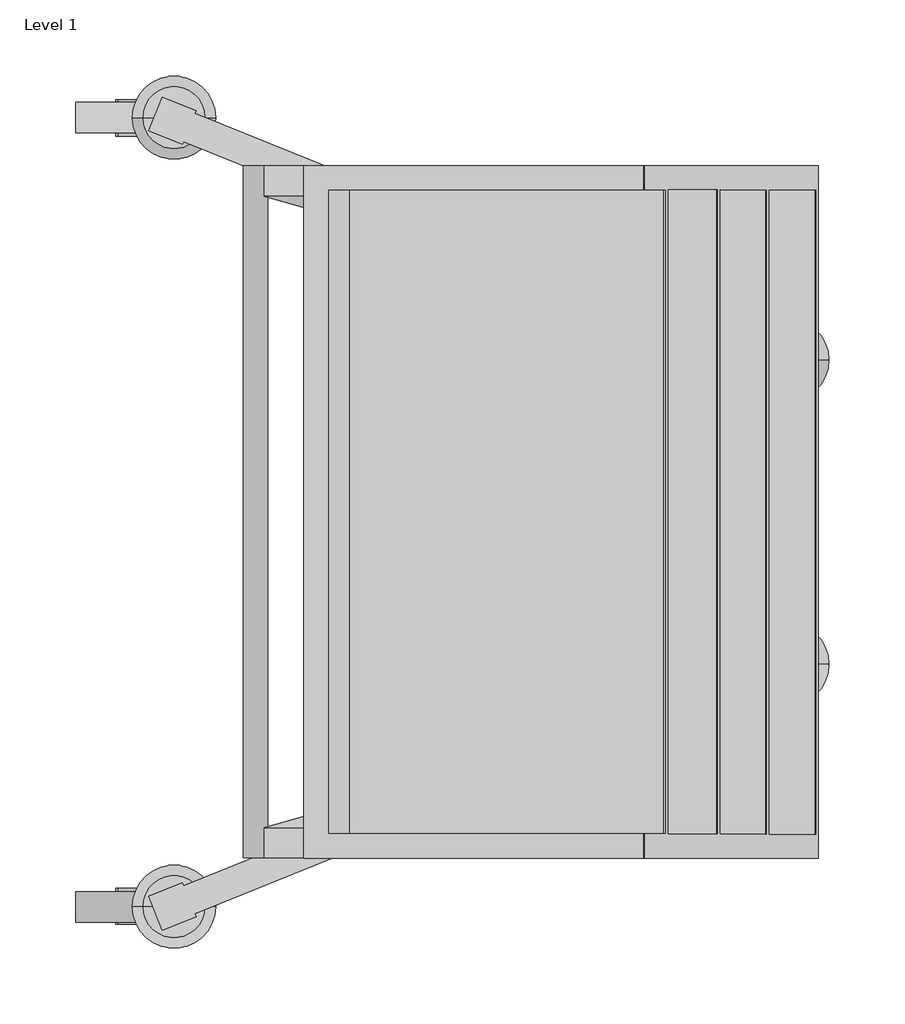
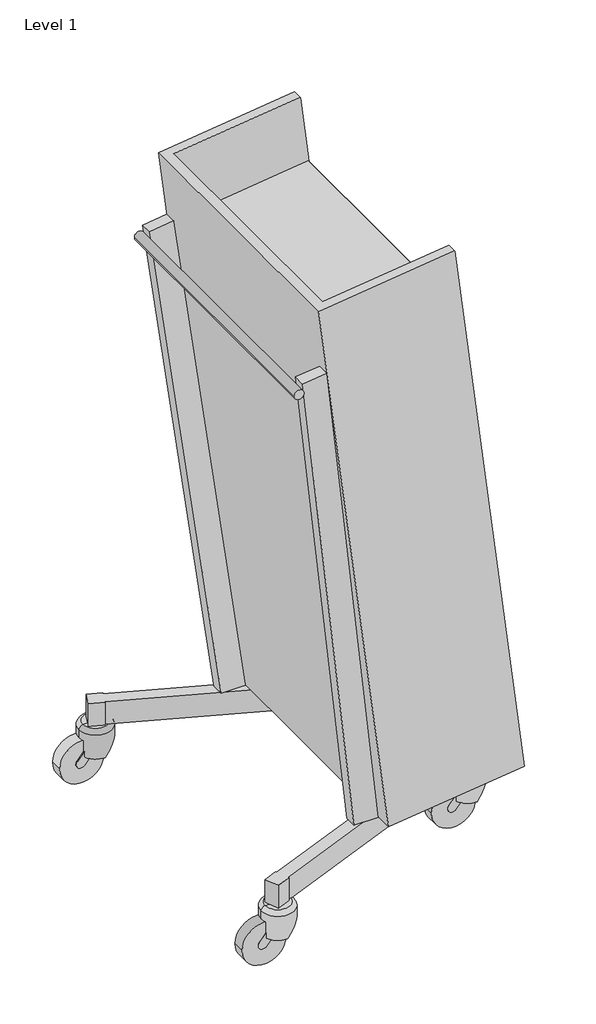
# One storey: 1 furniture element.
"""IFC4 building model written with IfcOpenShell, lengths in millimetres."""

import ifcopenshell
import ifcopenshell.guid

model = None  # the IFC model being written
_history = None  # IfcOwnerHistory: only IFC2X3 demands one
_inside = {}  # id of a spatial element -> (the spatial element, [elements in it])
_under = {}  # id of a project, library or spatial element -> (it, [spatial elements below it])
_declared = {}  # id of a project -> (the project, [libraries it declares])
_typed = {}  # id of a type object -> (the type object, [elements of that type])
_made_of = {}  # id of a material, layer set ... -> (it, [elements and type objects made of it])


def new_model(schema):
    """Start an empty IFC model of exactly this schema.

    Asked for "IFC4X3", IfcOpenShell would pick the latest addendum, in which some entities
    have other attributes; the version numbers below select the first issue.
    IFC2X3 requires an IfcOwnerHistory on every rooted entity: one is made here for all.
    """
    global model, _history
    if schema == "IFC4X3":
        model = ifcopenshell.file(schema_version=(4, 3, 0, 0))
    else:
        model = ifcopenshell.file(schema=schema)
    _inside.clear()
    _under.clear()
    _declared.clear()
    _typed.clear()
    _made_of.clear()
    _history = None
    if model.schema == "IFC2X3":
        org = make("IfcOrganization", Name="unknown")
        user = make(
            "IfcPersonAndOrganization",
            ThePerson=make("IfcPerson", FamilyName="unknown"),
            TheOrganization=org,
        )
        app = make(
            "IfcApplication",
            ApplicationDeveloper=org,
            Version="unknown",
            ApplicationFullName="unknown",
            ApplicationIdentifier="unknown",
        )
        _history = make(
            "IfcOwnerHistory",
            OwningUser=user,
            OwningApplication=app,
            ChangeAction="ADDED",
            CreationDate=0,
        )
    return model


def make(cls, **values):
    """One entity of the class cls with the attributes given. An attribute that is None is left unset."""
    return model.create_entity(
        cls, **{name: value for name, value in values.items() if value is not None}
    )


def rooted(cls, **values):
    """An entity with a GlobalId (a new one), such as an element, a storey or a relation."""
    return make(cls, GlobalId=ifcopenshell.guid.new(), OwnerHistory=_history, **values)


def si_unit(unit_type, name, prefix=None):
    """IfcSIUnit, for example si_unit("LENGTHUNIT", "METRE", prefix="MILLI")."""
    return make("IfcSIUnit", UnitType=unit_type, Prefix=prefix, Name=name)


def assignment(units):
    """IfcUnitAssignment: the units of a project."""
    return None if units is None else make("IfcUnitAssignment", Units=units)


def point(xyz):
    """IfcCartesianPoint."""
    return None if xyz is None else make("IfcCartesianPoint", Coordinates=xyz)


def direction(xyz):
    """IfcDirection."""
    return None if xyz is None else make("IfcDirection", DirectionRatios=xyz)


def frame(location, z_axis=None, x_axis=None):
    """IfcAxis2Placement3D, a coordinate frame: its origin and axes. An axis left out is left unset."""
    return make(
        "IfcAxis2Placement3D",
        Location=point(location),
        Axis=direction(z_axis),
        RefDirection=direction(x_axis),
    )


def frame_2d(location, x_axis=None):
    """IfcAxis2Placement2D, a coordinate frame in the plane: its origin and x axis."""
    return make(
        "IfcAxis2Placement2D", Location=point(location), RefDirection=direction(x_axis)
    )


def origin():
    """The frame at (0, 0, 0) with its axes left unset."""
    return frame((0.0, 0.0, 0.0))


def place(relative_to, where):
    """IfcLocalPlacement: puts the frame where relative to a parent placement (None: the world)."""
    return make(
        "IfcLocalPlacement", PlacementRelTo=relative_to, RelativePlacement=where
    )


def context(
    kind, dimensions, precision=None, world=None, true_north=None, identifier=None
):
    """IfcGeometricRepresentationContext, for example the 3D "Model" context."""
    return make(
        "IfcGeometricRepresentationContext",
        ContextIdentifier=identifier,
        ContextType=kind,
        CoordinateSpaceDimension=dimensions,
        Precision=precision,
        WorldCoordinateSystem=world,
        TrueNorth=true_north,
    )


def project(units=None, contexts=None):
    """IfcProject with its units and contexts."""
    return rooted(
        "IfcProject",
        Name="project",
        RepresentationContexts=contexts,
        UnitsInContext=assignment(units),
    )


def spatial(cls, under=None, at=None, **own):
    """A site, building, storey or space (cls), placed at a placement, below another one or the project."""
    s = rooted(cls, ObjectPlacement=at, **own)
    if under is not None:
        _under.setdefault(under.id(), (under, []))[1].append(s)
    return s


def polyline(points):
    """IfcPolyline through the points."""
    return make("IfcPolyline", Points=[point(p) for p in points])


def circle_curve(where, radius):
    """IfcCircle in the frame where."""
    return make("IfcCircle", Position=where, Radius=radius)


def ellipse_curve(where, semi_axis1, semi_axis2):
    """IfcEllipse in the frame where."""
    return make(
        "IfcEllipse", Position=where, SemiAxis1=semi_axis1, SemiAxis2=semi_axis2
    )


def trimmed(basis, trim1, trim2, sense, master):
    """IfcTrimmedCurve: the piece of a basis curve between two trims."""
    return make(
        "IfcTrimmedCurve",
        BasisCurve=basis,
        Trim1=trim1,
        Trim2=trim2,
        SenseAgreement=sense,
        MasterRepresentation=master,
    )


def segment(curve, same_sense, transition):
    """IfcCompositeCurveSegment."""
    return make(
        "IfcCompositeCurveSegment",
        Transition=transition,
        SameSense=same_sense,
        ParentCurve=curve,
    )


def composite_curve(segments, self_intersect=None):
    """IfcCompositeCurve: segments joined end to end."""
    return make("IfcCompositeCurve", Segments=segments, SelfIntersect=self_intersect)


def outline(outer, holes=None, kind="AREA"):
    """IfcArbitraryClosedProfileDef: a profile drawn as a closed curve; with holes, ...WithVoids."""
    if holes is None:
        return make("IfcArbitraryClosedProfileDef", ProfileType=kind, OuterCurve=outer)
    return make(
        "IfcArbitraryProfileDefWithVoids",
        ProfileType=kind,
        OuterCurve=outer,
        InnerCurves=holes,
    )


def extrude(swept, where, along, depth):
    """IfcExtrudedAreaSolid: the profile swept, set in the frame where, extruded along a direction by depth."""
    return make(
        "IfcExtrudedAreaSolid",
        SweptArea=swept,
        Position=where,
        ExtrudedDirection=direction(along),
        Depth=depth,
    )


def shape(context_of_items, identifier, shape_type, items):
    """IfcShapeRepresentation: the items that make up one representation, for example the "Body"."""
    return make(
        "IfcShapeRepresentation",
        ContextOfItems=context_of_items,
        RepresentationIdentifier=identifier,
        RepresentationType=shape_type,
        Items=items,
    )


def source(mapping_origin, context_of_items, identifier, shape_type, items):
    """IfcRepresentationMap: a shape defined once, which mapped items show again and again."""
    return make(
        "IfcRepresentationMap",
        MappingOrigin=mapping_origin,
        MappedRepresentation=shape(context_of_items, identifier, shape_type, items),
    )


def transform(
    local_origin,
    x_axis=None,
    y_axis=None,
    z_axis=None,
    scale=None,
    scale2=None,
    scale3=None,
    uniform=True,
):
    """IfcCartesianTransformationOperator3D, or its non-uniform kind. x_axis, y_axis, z_axis: its Axis1, 2, 3."""
    if uniform:
        return make(
            "IfcCartesianTransformationOperator3D",
            Axis1=direction(x_axis),
            Axis2=direction(y_axis),
            LocalOrigin=point(local_origin),
            Scale=scale,
            Axis3=direction(z_axis),
        )
    return make(
        "IfcCartesianTransformationOperator3DnonUniform",
        Axis1=direction(x_axis),
        Axis2=direction(y_axis),
        LocalOrigin=point(local_origin),
        Scale=scale,
        Axis3=direction(z_axis),
        Scale2=scale2,
        Scale3=scale3,
    )


def mapped(mapping_source, mapping_target):
    """IfcMappedItem: shows the shape of a source again, moved by a transform."""
    return make(
        "IfcMappedItem", MappingSource=mapping_source, MappingTarget=mapping_target
    )


def made_of(thing, what):
    """Note that an element or type object is made of a material, layer set ...; save() writes the relation."""
    if what is not None:
        _made_of.setdefault(what.id(), (what, []))[1].append(thing)
    return thing


def element(
    cls,
    number,
    at=None,
    inside=None,
    cuts=None,
    type_object=None,
    material=None,
    context=None,
    identifier="Body",
    shape_type=None,
    held_by="IfcProductDefinitionShape",
    body=None,
    shapes=None,
    **own,
):
    """One element of the class cls, such as IfcWall. Its Tag is "e" and its number.

    at: its placement. inside: the storey or other place that contains it. cuts: it is an
    opening in that element (IfcRelVoidsElement). A single representation is given by context,
    identifier, shape_type and body (its items); several are given by shapes. held_by: the class
    of the entity that holds the representations. save() writes the other relations.
    """
    e = rooted(cls, Tag="e%d" % number, ObjectPlacement=at, **own)
    if body is not None:
        shapes = [shape(context, identifier, shape_type, body)]
    if shapes is not None:
        e.Representation = make(held_by, Representations=shapes)
    if inside is not None:
        _inside.setdefault(inside.id(), (inside, []))[1].append(e)
    if cuts is not None:
        rooted(
            "IfcRelVoidsElement", RelatingBuildingElement=cuts, RelatedOpeningElement=e
        )
    if type_object is not None:
        _typed.setdefault(type_object.id(), (type_object, []))[1].append(e)
    return made_of(e, material)


def aggregate(whole, parts):
    """IfcRelAggregates: a whole, such as a stair, and the parts it consists of."""
    return rooted("IfcRelAggregates", RelatingObject=whole, RelatedObjects=parts)


def save(model, path):
    """Write the relations noted so far, then the file.

    IfcRelAggregates (storeys below a building ...), IfcRelContainedInSpatialStructure (elements
    in a storey), IfcRelDefinesByType, IfcRelAssociatesMaterial and IfcRelDeclares: one each for
    every whole, place, type object, material and project.
    """
    for whole, parts in _under.values():
        aggregate(whole, parts)
    for where, things in _inside.values():
        rooted(
            "IfcRelContainedInSpatialStructure",
            RelatedElements=things,
            RelatingStructure=where,
        )
    for kind, things in _typed.values():
        rooted("IfcRelDefinesByType", RelatedObjects=things, RelatingType=kind)
    for what, things in _made_of.values():
        rooted("IfcRelAssociatesMaterial", RelatedObjects=things, RelatingMaterial=what)
    for by, libraries in _declared.values():
        rooted("IfcRelDeclares", RelatingContext=by, RelatedDefinitions=libraries)
    model.write(path)


def plane_surface(at):
    """IfcPlane: the flat surface through the origin of the frame at, square to its z axis."""
    return make("IfcPlane", Position=at)


def cylinder_surface(at, radius):
    """IfcCylindricalSurface: all points at the distance radius from the z axis of the frame at."""
    return make("IfcCylindricalSurface", Position=at, Radius=radius)


def revolved_surface(curve, axis_point, axis_direction):
    """IfcSurfaceOfRevolution: the curve turned about the line through axis_point along axis_direction."""
    return make(
        "IfcSurfaceOfRevolution",
        SweptCurve=make("IfcArbitraryOpenProfileDef", ProfileType="CURVE", Curve=curve),
        AxisPosition=make("IfcAxis1Placement", Location=point(axis_point), Axis=direction(axis_direction)),
    )


def advanced_brep(points, edges, surfaces, faces):
    """IfcAdvancedBrep: a solid bounded by faces that lie on surfaces and meet in shared edges.

    An edge is (start, end): straight between two places in points (the first is 0);
    or (start, end, curve); or (start, end, curve, False) where it runs against its curve.
    A face is (place in surfaces, loops), or (place, loops, False) where it looks against
    its surface's normal. A loop lists edges by number (the first is 1), with a minus sign
    where the edge is run from its end to its start. The first loop is the outer one.
    """
    corners = [point(p) for p in points]
    vertices = [make("IfcVertexPoint", VertexGeometry=c) for c in corners]
    made = []
    for start, end, *more in edges:
        made.append(
            make(
                "IfcEdgeCurve",
                EdgeStart=vertices[start],
                EdgeEnd=vertices[end],
                EdgeGeometry=more[0] if more else make("IfcPolyline", Points=[corners[start], corners[end]]),
                SameSense=more[1] if len(more) > 1 else True,
            )
        )
    hull = []
    for where, loops, *sense in faces:
        bounds = []
        for j, loop in enumerate(loops):
            ring = [make("IfcOrientedEdge", EdgeElement=made[abs(k) - 1], Orientation=k > 0) for k in loop]
            bounds.append(
                make(
                    "IfcFaceOuterBound" if j == 0 else "IfcFaceBound",
                    Bound=make("IfcEdgeLoop", EdgeList=ring),
                    Orientation=True,
                )
            )
        hull.append(make("IfcAdvancedFace", Bounds=bounds, FaceSurface=surfaces[where], SameSense=sense[0] if sense else True))
    return make("IfcAdvancedBrep", Outer=make("IfcClosedShell", CfsFaces=hull))


def bk_library_bk_book_trolley_bk_library_bk_book_trolley_d79a5dd0(model_context):
    return source(origin(), model_context, "Body", "SolidModel", [
        advanced_brep(
        [(260.2793004, 215.4630173, 85.9771327), (260.2793004, 160.5929467, 85.9771327), (260.2793004, 160.5929467, 76.025685), (287.7095085, 187.513349, 44.4908375), (260.2793004, 215.4630173, 44.4908375), (232.8490923, 187.513349, 44.4908375), (260.2793004, 188.027982, 44.4908375), (260.2793004, 187.513349, 44.4908375), (260.2793004, 188.027982, 92.9771327), (260.2793004, 167.5929467, 92.9771327), (260.2793004, 208.4630173, 92.9771327)],
        [
            (0, 1, circle_curve(frame((260.2793004, 188.027982, 85.9771327), z_axis=(0.0, 0.0, -1.0), x_axis=(0.0, -1.0, 0.0)), 27.4350353)),
            (1, 2),
            (2, 3, ellipse_curve(frame((260.2793004, 188.027982, 43.8879909), z_axis=(0.0, 0.7605596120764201, 0.6492681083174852), x_axis=(0.0, -0.6492681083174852, 0.7605596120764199)), 42.2553256, 27.4350353)),
            (3, 4, circle_curve(frame((260.2793004, 188.027982, 44.4908375), z_axis=(0.0, 0.0, 1.0), x_axis=(0.0, -1.0, 0.0)), 27.4350353)),
            (4, 0),
            (4, 5, circle_curve(frame((260.2793004, 188.027982, 44.4908375), z_axis=(0.0, 0.0, 1.0), x_axis=(0.0, -1.0, 0.0)), 27.4350353)),
            (5, 2, ellipse_curve(frame((260.2793004, 188.027982, 43.8879909), z_axis=(0.0, 0.7605596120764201, 0.6492681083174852), x_axis=(0.0, -0.6492681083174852, 0.7605596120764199)), 42.2553256, 27.4350353)),
            (1, 0, circle_curve(frame((260.2793004, 188.027982, 85.9771327), z_axis=(0.0, 0.0, -1.0), x_axis=(0.0, -1.0, 0.0)), 27.4350353)),
            (6, 4),
            (3, 7),
            (7, 6),
            (7, 5),
            (8, 9),
            (9, 10, circle_curve(frame((260.2793004, 188.027982, 92.9771327), z_axis=(0.0, 0.0, 1.0), x_axis=(0.0, -1.0, 0.0)), 20.4350353)),
            (10, 8),
            (10, 9, circle_curve(frame((260.2793004, 188.027982, 92.9771327), z_axis=(0.0, 0.0, 1.0), x_axis=(0.0, -1.0, 0.0)), 20.4350353)),
            (0, 10, circle_curve(frame((260.2793004, 208.4630173, 85.9771327), z_axis=(1.0, 0.0, 0.0), x_axis=(0.0, -1.0, 0.0)), 7.0)),
            (9, 1, circle_curve(frame((260.2793004, 167.5929467, 85.9771327), z_axis=(1.0, 0.0, 0.0), x_axis=(0.0, 1.0, 0.0)), 7.0)),
        ],
        [
            cylinder_surface(frame((260.2793004, 188.027982, 133.8335618), z_axis=(0.0, 0.0, 1.0), x_axis=(0.0, -1.0, 0.0)), 27.4350353),
            plane_surface(frame((260.2793004, 188.027982, 44.4908375), z_axis=(0.0, 0.0, -1.0), x_axis=(0.0, -1.0, 0.0))),
            plane_surface(frame((260.2793004, 188.027982, 92.9771327), z_axis=(0.0, 0.0, 1.0), x_axis=(0.0, -1.0, 0.0))),
            revolved_surface(trimmed(ellipse_curve(frame((260.2793004, 167.5929467, 85.9771327), z_axis=(-1.0, 0.0, 0.0), x_axis=(0.0, 1.0, 0.0)), 7.0, 7.0), [point((260.2793004, 160.5929467, 85.9771327))], [point((260.2793004, 167.5929467, 92.9771327))], True, "CARTESIAN"), (260.2793004, 188.027982, 133.8335618), (0.0, 0.0, 1.0)),
            plane_surface(frame((228.001518, 146.9121455, 92.0515219), z_axis=(0.0, -0.7605596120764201, -0.6492681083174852), x_axis=(1.0, 0.0, 0.0))),
        ],
        [
            (0, [[1, 2, 3, 4, 5]]),
            (0, [[-5, 6, 7, -2, 8]]),
            (1, [[9, -4, 10, 11]]),
            (1, [[-9, -11, 12, -6]]),
            (2, [[13, 14, 15]]),
            (2, [[-13, -15, 16]]),
            (3, [[-1, 17, -14, 18]]),
            (3, [[-8, -18, -16, -17]]),
            (4, [[-3, -7, -12, -10]]),
        ],
    ),
        extrude(outline(composite_curve([segment(trimmed(circle_curve(frame_2d((216.4774948, 36.3613825)), 36.3613825), [point((252.8388773, 36.3613825))], [point((180.1161123, 36.3613825))], False, "CARTESIAN"), True, "CONTINUOUS"), segment(trimmed(circle_curve(frame_2d((216.4774948, 36.3613825)), 36.3613825), [point((180.1161123, 36.3613825))], [point((180.1598679, 38.1446696))], False, "CARTESIAN"), True, "CONTINUOUS"), segment(polyline([(180.1598679, 38.1446696), (192.930892, 38.1446696), (182.7835547, 50.0313692)]), True, "CONTINUOUS"), segment(trimmed(circle_curve(frame_2d((216.4774948, 36.3613825)), 36.3613825), [point((182.7835547, 50.0313692))], [point((252.8388773, 36.3613825))], False, "CARTESIAN"), True, "CONTINUOUS")], self_intersect=False)), frame((250.4169584, 0.0, 0.0), z_axis=(1.0, 0.0, 0.0), x_axis=(0.0, 1.0, 0.0)), (0.0, 0.0, 1.0), 20.086419),
        extrude(outline(composite_curve([segment(trimmed(circle_curve(frame_2d((218.9212863, 35.8271855)), 7.6381626), [point((224.7724583, 40.7369017))], [point((213.0701143, 30.9174692))], False, "CARTESIAN"), True, "CONTINUOUS"), segment(polyline([(213.0701143, 30.9174692), (191.0834266, 57.1201833), (204.8484986, 64.4813522), (224.7724583, 40.7369017)]), True, "CONTINUOUS")], self_intersect=False)), frame((248.001518, 0.0, 0.0), z_axis=(1.0, 0.0, 0.0), x_axis=(0.0, 1.0, 0.0)), (0.0, 0.0, 1.0), 23.9781765),
        advanced_brep(
        [(-260.2793004, 160.5929467, 85.9771327), (-260.2793004, 215.4630173, 85.9771327), (-260.2793004, 215.4630173, 44.4908375), (-287.7095085, 187.513349, 44.4908375), (-260.2793004, 160.5929467, 76.025685), (-232.8490923, 187.513349, 44.4908375), (-260.2793004, 188.027982, 44.4908375), (-260.2793004, 187.513349, 44.4908375), (-260.2793004, 208.4630173, 92.9771327), (-260.2793004, 167.5929467, 92.9771327), (-260.2793004, 188.027982, 92.9771327)],
        [
            (0, 1, circle_curve(frame((-260.2793004, 188.027982, 85.9771327), z_axis=(0.0, 0.0, -1.0), x_axis=(0.0, -1.0, 0.0)), 27.4350353)),
            (1, 2),
            (2, 3, circle_curve(frame((-260.2793004, 188.027982, 44.4908375), z_axis=(0.0, 0.0, 1.0), x_axis=(0.0, -1.0, 0.0)), 27.4350353)),
            (3, 4, ellipse_curve(frame((-260.2793004, 188.027982, 43.8879909), z_axis=(0.0, 0.7605596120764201, 0.6492681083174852), x_axis=(0.0, 0.6492681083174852, -0.7605596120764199)), 42.2553256, 27.4350353)),
            (4, 0),
            (1, 0, circle_curve(frame((-260.2793004, 188.027982, 85.9771327), z_axis=(0.0, 0.0, -1.0), x_axis=(0.0, -1.0, 0.0)), 27.4350353)),
            (4, 5, ellipse_curve(frame((-260.2793004, 188.027982, 43.8879909), z_axis=(0.0, 0.7605596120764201, 0.6492681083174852), x_axis=(0.0, 0.6492681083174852, -0.7605596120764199)), 42.2553256, 27.4350353)),
            (5, 2, circle_curve(frame((-260.2793004, 188.027982, 44.4908375), z_axis=(0.0, 0.0, 1.0), x_axis=(0.0, -1.0, 0.0)), 27.4350353)),
            (2, 6),
            (6, 7),
            (7, 3),
            (5, 7),
            (8, 9, circle_curve(frame((-260.2793004, 188.027982, 92.9771327), z_axis=(0.0, 0.0, 1.0), x_axis=(0.0, -1.0, 0.0)), 20.4350353)),
            (9, 10),
            (10, 8),
            (9, 8, circle_curve(frame((-260.2793004, 188.027982, 92.9771327), z_axis=(0.0, 0.0, 1.0), x_axis=(0.0, -1.0, 0.0)), 20.4350353)),
            (0, 9, circle_curve(frame((-260.2793004, 167.5929467, 85.9771327), z_axis=(-1.0, 0.0, 0.0), x_axis=(0.0, 1.0, 0.0)), 7.0)),
            (8, 1, circle_curve(frame((-260.2793004, 208.4630173, 85.9771327), z_axis=(-1.0, 0.0, 0.0), x_axis=(0.0, -1.0, 0.0)), 7.0)),
        ],
        [
            cylinder_surface(frame((-260.2793004, 188.027982, 133.8335618), z_axis=(0.0, 0.0, -1.0), x_axis=(0.0, -1.0, 0.0)), 27.4350353),
            plane_surface(frame((-260.2793004, 188.027982, 44.4908375), z_axis=(0.0, 0.0, -1.0), x_axis=(0.0, -1.0, 0.0))),
            plane_surface(frame((-260.2793004, 188.027982, 92.9771327), z_axis=(0.0, 0.0, 1.0), x_axis=(0.0, -1.0, 0.0))),
            revolved_surface(trimmed(ellipse_curve(frame((-260.2793004, 167.5929467, 85.9771327), z_axis=(1.0, 0.0, 0.0), x_axis=(0.0, 1.0, 0.0)), 7.0, 7.0), [point((-260.2793004, 167.5929467, 92.9771327))], [point((-260.2793004, 160.5929467, 85.9771327))], True, "CARTESIAN"), (-260.2793004, 188.027982, 133.8335618), (0.0, 0.0, -1.0)),
            plane_surface(frame((-228.001518, 192.930892, 38.1446696), z_axis=(0.0, -0.7605596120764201, -0.6492681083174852), x_axis=(-1.0, 0.0, 0.0))),
        ],
        [
            (0, [[1, 2, 3, 4, 5]]),
            (0, [[-2, 6, -5, 7, 8]]),
            (1, [[9, 10, 11, -3]]),
            (1, [[-9, -8, 12, -10]]),
            (2, [[13, 14, 15]]),
            (2, [[-14, 16, -15]]),
            (3, [[-1, 17, -13, 18]]),
            (3, [[-6, -18, -16, -17]]),
            (4, [[-4, -11, -12, -7]]),
        ],
    ),
        extrude(outline(composite_curve([segment(trimmed(circle_curve(frame_2d((216.4774948, 36.3613825)), 36.3613825), [point((252.8388773, 36.3613825))], [point((180.1161123, 36.3613825))], False, "CARTESIAN"), True, "CONTINUOUS"), segment(trimmed(circle_curve(frame_2d((216.4774948, 36.3613825)), 36.3613825), [point((180.1161123, 36.3613825))], [point((180.1598679, 38.1446696))], False, "CARTESIAN"), True, "CONTINUOUS"), segment(polyline([(180.1598679, 38.1446696), (192.930892, 38.1446696), (182.7835547, 50.0313692)]), True, "CONTINUOUS"), segment(trimmed(circle_curve(frame_2d((216.4774948, 36.3613825)), 36.3613825), [point((182.7835547, 50.0313692))], [point((252.8388773, 36.3613825))], False, "CARTESIAN"), True, "CONTINUOUS")], self_intersect=False)), frame((-270.5033774, 0.0, 0.0), z_axis=(1.0, 0.0, 0.0), x_axis=(0.0, 1.0, 0.0)), (0.0, 0.0, 1.0), 20.086419),
        extrude(outline(composite_curve([segment(trimmed(circle_curve(frame_2d((218.9212863, 35.8271855)), 7.6381626), [point((224.7724583, 40.7369017))], [point((213.0701143, 30.9174692))], False, "CARTESIAN"), True, "CONTINUOUS"), segment(polyline([(213.0701143, 30.9174692), (191.0834266, 57.1201833), (204.8484986, 64.4813522), (224.7724583, 40.7369017)]), True, "CONTINUOUS")], self_intersect=False)), frame((-271.9796945, 0.0, 0.0), z_axis=(1.0, 0.0, 0.0), x_axis=(0.0, 1.0, 0.0)), (0.0, 0.0, 1.0), 23.9781765),
        advanced_brep(
        [(100.3897984, -189.2297451, 85.9771327), (100.3897984, -244.0998158, 85.9771327), (100.3897984, -244.0998158, 76.025685), (127.8200065, -217.1794135, 44.4908375), (100.3897984, -189.2297451, 44.4908375), (72.9595903, -217.1794135, 44.4908375), (100.3897984, -216.6647805, 44.4908375), (100.3897984, -217.1794135, 44.4908375), (100.3897984, -216.6647805, 92.9771327), (100.3897984, -237.0998158, 92.9771327), (100.3897984, -196.2297451, 92.9771327)],
        [
            (0, 1, circle_curve(frame((100.3897984, -216.6647805, 85.9771327), z_axis=(0.0, 0.0, -1.0), x_axis=(0.0, -1.0, 0.0)), 27.4350353)),
            (1, 2),
            (2, 3, ellipse_curve(frame((100.3897984, -216.6647805, 43.8879909), z_axis=(0.0, 0.76055961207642, 0.6492681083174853), x_axis=(0.0, -0.6492681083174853, 0.7605596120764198)), 42.2553256, 27.4350353)),
            (3, 4, circle_curve(frame((100.3897984, -216.6647805, 44.4908375), z_axis=(0.0, 0.0, 1.0), x_axis=(0.0, -1.0, 0.0)), 27.4350353)),
            (4, 0),
            (4, 5, circle_curve(frame((100.3897984, -216.6647805, 44.4908375), z_axis=(0.0, 0.0, 1.0), x_axis=(0.0, -1.0, 0.0)), 27.4350353)),
            (5, 2, ellipse_curve(frame((100.3897984, -216.6647805, 43.8879909), z_axis=(0.0, 0.76055961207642, 0.6492681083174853), x_axis=(0.0, -0.6492681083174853, 0.7605596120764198)), 42.2553256, 27.4350353)),
            (1, 0, circle_curve(frame((100.3897984, -216.6647805, 85.9771327), z_axis=(0.0, 0.0, -1.0), x_axis=(0.0, -1.0, 0.0)), 27.4350353)),
            (6, 4),
            (3, 7),
            (7, 6),
            (7, 5),
            (8, 9),
            (9, 10, circle_curve(frame((100.3897984, -216.6647805, 92.9771327), z_axis=(0.0, 0.0, 1.0), x_axis=(0.0, -1.0, 0.0)), 20.4350353)),
            (10, 8),
            (10, 9, circle_curve(frame((100.3897984, -216.6647805, 92.9771327), z_axis=(0.0, 0.0, 1.0), x_axis=(0.0, -1.0, 0.0)), 20.4350353)),
            (0, 10, circle_curve(frame((100.3897984, -196.2297451, 85.9771327), z_axis=(1.0, 0.0, 0.0), x_axis=(0.0, -1.0, 0.0)), 7.0)),
            (9, 1, circle_curve(frame((100.3897984, -237.0998158, 85.9771327), z_axis=(1.0, 0.0, 0.0), x_axis=(0.0, 1.0, 0.0)), 7.0)),
        ],
        [
            cylinder_surface(frame((100.3897984, -216.6647805, 133.8335618), z_axis=(0.0, 0.0, 1.0), x_axis=(0.0, -1.0, 0.0)), 27.4350353),
            plane_surface(frame((100.3897984, -216.6647805, 44.4908375), z_axis=(0.0, 0.0, -1.0), x_axis=(0.0, -1.0, 0.0))),
            plane_surface(frame((100.3897984, -216.6647805, 92.9771327), z_axis=(0.0, 0.0, 1.0), x_axis=(0.0, -1.0, 0.0))),
            revolved_surface(trimmed(ellipse_curve(frame((100.3897984, -237.0998158, 85.9771327), z_axis=(-1.0, 0.0, 0.0), x_axis=(0.0, 1.0, 0.0)), 7.0, 7.0), [point((100.3897984, -244.0998158, 85.9771327))], [point((100.3897984, -237.0998158, 92.9771327))], True, "CARTESIAN"), (100.3897984, -216.6647805, 133.8335618), (0.0, 0.0, 1.0)),
            plane_surface(frame((68.1120159, -257.780617, 92.0515219), z_axis=(0.0, -0.76055961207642, -0.6492681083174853), x_axis=(1.0, 0.0, 0.0))),
        ],
        [
            (0, [[1, 2, 3, 4, 5]]),
            (0, [[-5, 6, 7, -2, 8]]),
            (1, [[9, -4, 10, 11]]),
            (1, [[-9, -11, 12, -6]]),
            (2, [[13, 14, 15]]),
            (2, [[-13, -15, 16]]),
            (3, [[-1, 17, -14, 18]]),
            (3, [[-8, -18, -16, -17]]),
            (4, [[-3, -7, -12, -10]]),
        ],
    ),
        extrude(outline(composite_curve([segment(trimmed(circle_curve(frame_2d((-188.2152676, 36.3613825)), 36.3613825), [point((-151.8538851, 36.3613825))], [point((-224.5766502, 36.3613825))], False, "CARTESIAN"), True, "CONTINUOUS"), segment(trimmed(circle_curve(frame_2d((-188.2152676, 36.3613825)), 36.3613825), [point((-224.5766502, 36.3613825))], [point((-224.5328946, 38.1446696))], False, "CARTESIAN"), True, "CONTINUOUS"), segment(polyline([(-224.5328946, 38.1446696), (-211.7618704, 38.1446696), (-221.9092078, 50.0313692)]), True, "CONTINUOUS"), segment(trimmed(circle_curve(frame_2d((-188.2152676, 36.3613825)), 36.3613825), [point((-221.9092078, 50.0313692))], [point((-151.8538851, 36.3613825))], False, "CARTESIAN"), True, "CONTINUOUS")], self_intersect=False)), frame((90.5274563, 0.0, 0.0), z_axis=(1.0, 0.0, 0.0), x_axis=(0.0, 1.0, 0.0)), (0.0, 0.0, 1.0), 20.086419),
        extrude(outline(composite_curve([segment(trimmed(circle_curve(frame_2d((-188.2152676, 36.3613825)), 36.3613825), [point((-224.5766502, 36.3613825))], [point((-151.8538851, 36.3613825))], False, "CARTESIAN"), True, "CONTINUOUS"), segment(trimmed(circle_curve(frame_2d((-188.2152676, 36.3613825)), 36.3613825), [point((-151.8538851, 36.3613825))], [point((-224.5766502, 36.3613825))], False, "CARTESIAN"), True, "CONTINUOUS")], self_intersect=False)), frame((-110.6138753, 0.0, 0.0), z_axis=(1.0, 0.0, 0.0), x_axis=(0.0, 1.0, 0.0)), (0.0, 0.0, 1.0), 20.086419),
        extrude(outline(composite_curve([segment(trimmed(circle_curve(frame_2d((-185.7714762, 35.8271855)), 7.6381626), [point((-179.9203042, 40.7369017))], [point((-191.6226481, 30.9174692))], False, "CARTESIAN"), True, "CONTINUOUS"), segment(polyline([(-191.6226481, 30.9174692), (-213.6093359, 57.1201833), (-199.8442638, 64.4813522), (-179.9203042, 40.7369017)]), True, "CONTINUOUS")], self_intersect=False)), frame((88.1120159, 0.0, 0.0), z_axis=(1.0, 0.0, 0.0), x_axis=(0.0, 1.0, 0.0)), (0.0, 0.0, 1.0), 23.9781765),
        advanced_brep(
        [(-100.3897984, -244.0998158, 85.9771327), (-100.3897984, -189.2297451, 85.9771327), (-100.3897984, -189.2297451, 44.4908375), (-127.8200065, -217.1794135, 44.4908375), (-100.3897984, -244.0998158, 76.025685), (-72.9595903, -217.1794135, 44.4908375), (-100.3897984, -216.6647805, 44.4908375), (-100.3897984, -217.1794135, 44.4908375), (-100.3897984, -196.2297451, 92.9771327), (-100.3897984, -237.0998158, 92.9771327), (-100.3897984, -216.6647805, 92.9771327)],
        [
            (0, 1, circle_curve(frame((-100.3897984, -216.6647805, 85.9771327), z_axis=(0.0, 0.0, -1.0), x_axis=(0.0, -1.0, 0.0)), 27.4350353)),
            (1, 2),
            (2, 3, circle_curve(frame((-100.3897984, -216.6647805, 44.4908375), z_axis=(0.0, 0.0, 1.0), x_axis=(0.0, -1.0, 0.0)), 27.4350353)),
            (3, 4, ellipse_curve(frame((-100.3897984, -216.6647805, 43.8879909), z_axis=(0.0, 0.76055961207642, 0.6492681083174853), x_axis=(0.0, 0.6492681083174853, -0.7605596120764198)), 42.2553256, 27.4350353)),
            (4, 0),
            (1, 0, circle_curve(frame((-100.3897984, -216.6647805, 85.9771327), z_axis=(0.0, 0.0, -1.0), x_axis=(0.0, -1.0, 0.0)), 27.4350353)),
            (4, 5, ellipse_curve(frame((-100.3897984, -216.6647805, 43.8879909), z_axis=(0.0, 0.76055961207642, 0.6492681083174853), x_axis=(0.0, 0.6492681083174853, -0.7605596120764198)), 42.2553256, 27.4350353)),
            (5, 2, circle_curve(frame((-100.3897984, -216.6647805, 44.4908375), z_axis=(0.0, 0.0, 1.0), x_axis=(0.0, -1.0, 0.0)), 27.4350353)),
            (2, 6),
            (6, 7),
            (7, 3),
            (5, 7),
            (8, 9, circle_curve(frame((-100.3897984, -216.6647805, 92.9771327), z_axis=(0.0, 0.0, 1.0), x_axis=(0.0, -1.0, 0.0)), 20.4350353)),
            (9, 10),
            (10, 8),
            (9, 8, circle_curve(frame((-100.3897984, -216.6647805, 92.9771327), z_axis=(0.0, 0.0, 1.0), x_axis=(0.0, -1.0, 0.0)), 20.4350353)),
            (0, 9, circle_curve(frame((-100.3897984, -237.0998158, 85.9771327), z_axis=(-1.0, 0.0, 0.0), x_axis=(0.0, 1.0, 0.0)), 7.0)),
            (8, 1, circle_curve(frame((-100.3897984, -196.2297451, 85.9771327), z_axis=(-1.0, 0.0, 0.0), x_axis=(0.0, -1.0, 0.0)), 7.0)),
        ],
        [
            cylinder_surface(frame((-100.3897984, -216.6647805, 133.8335618), z_axis=(0.0, 0.0, -1.0), x_axis=(0.0, -1.0, 0.0)), 27.4350353),
            plane_surface(frame((-100.3897984, -216.6647805, 44.4908375), z_axis=(0.0, 0.0, -1.0), x_axis=(0.0, -1.0, 0.0))),
            plane_surface(frame((-100.3897984, -216.6647805, 92.9771327), z_axis=(0.0, 0.0, 1.0), x_axis=(0.0, -1.0, 0.0))),
            revolved_surface(trimmed(ellipse_curve(frame((-100.3897984, -237.0998158, 85.9771327), z_axis=(1.0, 0.0, 0.0), x_axis=(0.0, 1.0, 0.0)), 7.0, 7.0), [point((-100.3897984, -237.0998158, 92.9771327))], [point((-100.3897984, -244.0998158, 85.9771327))], True, "CARTESIAN"), (-100.3897984, -216.6647805, 133.8335618), (0.0, 0.0, -1.0)),
            plane_surface(frame((-68.1120159, -211.7618704, 38.1446696), z_axis=(0.0, -0.76055961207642, -0.6492681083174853), x_axis=(-1.0, 0.0, 0.0))),
        ],
        [
            (0, [[1, 2, 3, 4, 5]]),
            (0, [[-2, 6, -5, 7, 8]]),
            (1, [[9, 10, 11, -3]]),
            (1, [[-9, -8, 12, -10]]),
            (2, [[13, 14, 15]]),
            (2, [[-14, 16, -15]]),
            (3, [[-1, 17, -13, 18]]),
            (3, [[-6, -18, -16, -17]]),
            (4, [[-4, -11, -12, -7]]),
        ],
    ),
        extrude(outline(composite_curve([segment(trimmed(circle_curve(frame_2d((-185.7714762, 35.8271855)), 7.6381626), [point((-179.9203042, 40.7369017))], [point((-191.6226481, 30.9174692))], False, "CARTESIAN"), True, "CONTINUOUS"), segment(polyline([(-191.6226481, 30.9174692), (-213.6093359, 57.1201833), (-199.8442638, 64.4813522), (-179.9203042, 40.7369017)]), True, "CONTINUOUS")], self_intersect=False)), frame((-112.0901924, 0.0, 0.0), z_axis=(1.0, 0.0, 0.0), x_axis=(0.0, 1.0, 0.0)), (0.0, 0.0, 1.0), 23.9781765),
        advanced_brep(
        [(-228.4589427, -121.4559635, 1098.3397972), (-228.4589427, 102.4644681, 1070.8458253), (-228.4589427, -12.7356493, 133.1961951), (-228.4589427, -237.1361273, 160.7491093), (-228.4589427, -122.0737285, 1097.8571462), (-212.4590291, -204.7188743, 424.7664485), (-212.4590291, -235.2593463, 176.0343782), (-212.4590291, -234.590697, 176.5567842), (-212.4590291, -26.7515376, 151.0373443), (-212.4590291, 3.715799, 399.1738886), (-212.4590291, -172.3016282, 688.7837311), (-212.4590291, -202.8421019, 440.0516473), (-212.4590291, -202.1734526, 440.5740534), (-212.4590291, 5.6657069, 415.0546135), (-212.4590291, 36.1330451, 663.1911713), (-212.4590291, -138.0934504, 967.3869814), (-212.4590291, -170.4248535, 704.068948), (-212.4590291, -169.7562042, 704.5913541), (-212.4590291, 38.0829552, 679.0719142), (-212.4590291, 70.3412229, 941.7944215), (-212.4590291, -121.4559635, 1098.3397972), (-212.4590291, -122.0737285, 1097.8571462), (-212.4590291, -136.2927596, 982.0525854), (-212.4590291, -134.9284584, 983.1184943), (-212.4590291, 72.2911285, 957.6751284), (-212.4590291, 86.4285018, 1072.8147944), (228.4589427, -237.1361273, 160.7491093), (228.4589427, -122.0764748, 1097.83478), (212.4590291, -122.0764748, 1097.83478), (212.4590291, -136.292741, 982.0525831), (212.4590291, -138.0934504, 967.3869814), (212.4590291, -170.4248397, 704.0689463), (212.4590291, -172.3016282, 688.7837311), (212.4590291, -202.8420881, 440.0516456), (212.4590291, -204.7188743, 424.7664485), (212.4590291, -235.2593325, 176.0343765), (228.4589427, -12.7356493, 133.1961951), (228.4589427, 102.4644681, 1070.8458253), (212.4590291, 86.4285018, 1072.8147944), (212.4590291, -121.4335973, 1098.3370509), (228.4589427, -121.4335973, 1098.3370509), (212.4590291, 72.2911285, 957.6751284), (212.4590291, -134.9284584, 983.1184943), (212.4590291, 70.3412229, 941.7944215), (212.4590291, 38.0829552, 679.0719142), (212.4590291, -169.7562042, 704.5913541), (212.4590291, 36.1330451, 663.1911713), (212.4590291, 5.6657069, 415.0546135), (212.4590291, -202.1734526, 440.5740534), (212.4590291, 3.715799, 399.1738886), (212.4590291, -26.7515376, 151.0373443), (212.4590291, -234.590697, 176.5567842)],
        [
            (0, 1),
            (1, 2),
            (2, 3),
            (3, 4),
            (4, 0, circle_curve(frame((-228.4589427, -121.5235205, 1097.7895892), z_axis=(-1.0, 0.0, 0.0), x_axis=(0.0, -1.0, 0.0)), 0.55434)),
            (5, 6),
            (6, 7, circle_curve(frame((-212.4590291, -234.6638186, 175.9612566), z_axis=(-1.0, 0.0, 0.0), x_axis=(0.0, -1.0, 0.0)), 0.6)),
            (7, 8),
            (8, 9),
            (9, 5),
            (10, 11),
            (11, 12, circle_curve(frame((-212.4590291, -202.2465742, 439.9785257), z_axis=(-1.0, 0.0, 0.0), x_axis=(0.0, -1.0, 0.0)), 0.6)),
            (12, 13),
            (13, 14),
            (14, 10),
            (15, 16),
            (16, 17, circle_curve(frame((-212.4590291, -169.8293259, 703.9958264), z_axis=(-1.0, 0.0, 0.0), x_axis=(0.0, -1.0, 0.0)), 0.6)),
            (17, 18),
            (18, 19),
            (19, 15),
            (20, 21, circle_curve(frame((-212.4590291, -121.5235205, 1097.7895892), z_axis=(1.0, 0.0, 0.0), x_axis=(0.0, -1.0, 0.0)), 0.55434)),
            (21, 22),
            (22, 23, circle_curve(frame((-212.4590291, -135.0776545, 981.9033893), z_axis=(-1.0, 0.0, 0.0), x_axis=(0.0, -1.0, 0.0)), 1.2242303)),
            (23, 24),
            (24, 25),
            (25, 20),
            (3, 26),
            (26, 27),
            (27, 28),
            (28, 29),
            (29, 22),
            (21, 4),
            (15, 30),
            (30, 31),
            (31, 16),
            (10, 32),
            (32, 33),
            (33, 11),
            (5, 34),
            (34, 35),
            (35, 6),
            (2, 36),
            (36, 26),
            (1, 37),
            (37, 36),
            (0, 20),
            (25, 38),
            (38, 39),
            (39, 40),
            (40, 37),
            (24, 41),
            (41, 38),
            (23, 42),
            (42, 41),
            (19, 43),
            (43, 30),
            (18, 44),
            (44, 43),
            (17, 45),
            (45, 44),
            (14, 46),
            (46, 32),
            (13, 47),
            (47, 46),
            (12, 48),
            (48, 47),
            (9, 49),
            (49, 34),
            (8, 50),
            (50, 49),
            (7, 51),
            (51, 50),
            (40, 27, circle_curve(frame((228.4589427, -121.5039006, 1097.7644768), z_axis=(1.0, 0.0, 0.0), x_axis=(0.0, -1.0, 0.0)), 0.5768741)),
            (45, 31, circle_curve(frame((212.4590291, -169.8293259, 703.9958264), z_axis=(1.0, 0.0, 0.0), x_axis=(0.0, -1.0, 0.0)), 0.6)),
            (48, 33, circle_curve(frame((212.4590291, -202.2465742, 439.9785257), z_axis=(1.0, 0.0, 0.0), x_axis=(0.0, -1.0, 0.0)), 0.6)),
            (51, 35, circle_curve(frame((212.4590291, -234.6638186, 175.9612566), z_axis=(1.0, 0.0, 0.0), x_axis=(0.0, -1.0, 0.0)), 0.6)),
            (28, 39, circle_curve(frame((212.4590291, -121.5039006, 1097.7644768), z_axis=(-1.0, 0.0, 0.0), x_axis=(0.0, -1.0, 0.0)), 0.5768741)),
            (42, 29, circle_curve(frame((212.4590291, -135.0776545, 981.9033893), z_axis=(1.0, 0.0, 0.0), x_axis=(0.0, -1.0, 0.0)), 1.2242303)),
        ],
        [
            plane_surface(frame((-228.4589427, 102.309254, 1070.8648832), z_axis=(-1.0, 0.0, 0.0), x_axis=(0.0, 0.9925461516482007, -0.12186934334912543))),
            plane_surface(frame((-212.4590291, 102.309254, 1070.8648832), z_axis=(1.0, 0.0, 0.0), x_axis=(0.0, -0.9925461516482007, 0.12186934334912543))),
            plane_surface(frame((-228.4589427, -237.1361273, 160.7491093), z_axis=(0.0, -0.9925461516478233, 0.12186934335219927), x_axis=(1.0, 0.0, 0.0))),
            plane_surface(frame((-228.4589427, -12.7356493, 133.1961951), z_axis=(0.0, -0.12186934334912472, -0.9925461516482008), x_axis=(1.0, 0.0, 0.0))),
            plane_surface(frame((-228.4589427, 102.4644681, 1070.8458253), z_axis=(0.0, 0.9925370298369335, -0.12194361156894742), x_axis=(1.0, 0.0, 0.0))),
            plane_surface(frame((-228.4589427, -121.4559635, 1098.3397972), z_axis=(0.0, 0.12186934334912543, 0.9925461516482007), x_axis=(1.0, 0.0, 0.0))),
            plane_surface(frame((212.4590291, 86.4285088, 1072.8148509), z_axis=(0.0, -0.9925461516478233, 0.12186934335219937), x_axis=(-1.0, 0.0, 0.0))),
            plane_surface(frame((212.4590291, 72.2911285, 957.6751284), z_axis=(0.0, 0.12186934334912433, 0.9925461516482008), x_axis=(-1.0, 0.0, 0.0))),
            plane_surface(frame((212.4590291, -138.093469, 967.3869837), z_axis=(0.0, -0.12186934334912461, -0.9925461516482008), x_axis=(-1.0, 0.0, 0.0))),
            plane_surface(frame((212.4590291, 70.3412229, 941.7944215), z_axis=(0.0, -0.9925461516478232, 0.12186934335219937), x_axis=(-1.0, 0.0, 0.0))),
            plane_surface(frame((212.4590291, 38.0829552, 679.0719142), z_axis=(0.0, 0.12186934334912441, 0.9925461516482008), x_axis=(-1.0, 0.0, 0.0))),
            plane_surface(frame((212.4590291, -172.301642, 688.7837328), z_axis=(0.0, -0.12186934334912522, -0.9925461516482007), x_axis=(-1.0, 0.0, 0.0))),
            plane_surface(frame((212.4590291, 36.1330451, 663.1911713), z_axis=(0.0, -0.9925461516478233, 0.12186934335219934), x_axis=(-1.0, 0.0, 0.0))),
            plane_surface(frame((212.4590291, 5.6657069, 415.0546135), z_axis=(0.0, 0.12186934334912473, 0.9925461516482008), x_axis=(-1.0, 0.0, 0.0))),
            plane_surface(frame((212.4590291, -204.7188881, 424.7664502), z_axis=(0.0, -0.12186934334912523, -0.9925461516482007), x_axis=(-1.0, 0.0, 0.0))),
            plane_surface(frame((212.4590291, 3.715799, 399.1738886), z_axis=(0.0, -0.9925461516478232, 0.12186934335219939), x_axis=(-1.0, 0.0, 0.0))),
            plane_surface(frame((212.4590291, -26.7515376, 151.0373443), z_axis=(0.0, 0.12186934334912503, 0.9925461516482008), x_axis=(-1.0, 0.0, 0.0))),
            plane_surface(frame((228.4589427, -122.0807747, 1097.7644768), z_axis=(1.0, 0.0, 0.0), x_axis=(0.0, 0.0, -1.0))),
            plane_surface(frame((212.4590291, -122.0807747, 1097.7644768), z_axis=(-1.0, 0.0, 0.0), x_axis=(0.0, 0.0, 1.0))),
            cylinder_surface(frame((-212.4632083, -135.0776545, 981.9033893), z_axis=(1.0, 0.0, 0.0), x_axis=(0.0, -1.0, 0.0)), 1.2242303),
            cylinder_surface(frame((-212.4632083, -169.8293259, 703.9958264), z_axis=(1.0, 0.0, 0.0), x_axis=(0.0, -1.0, 0.0)), 0.6),
            cylinder_surface(frame((-212.4632083, -202.2465742, 439.9785257), z_axis=(1.0, 0.0, 0.0), x_axis=(0.0, -1.0, 0.0)), 0.6),
            cylinder_surface(frame((-212.4632083, -234.6638186, 175.9612566), z_axis=(1.0, 0.0, 0.0), x_axis=(0.0, -1.0, 0.0)), 0.6),
            cylinder_surface(frame((-212.4590291, -121.5235205, 1097.7895892), z_axis=(-1.0, 0.0, 0.0), x_axis=(0.0, -1.0, 0.0)), 0.55434),
            cylinder_surface(frame((212.4590291, -121.5039006, 1097.7644768), z_axis=(1.0, 0.0, 0.0), x_axis=(0.0, -1.0, 0.0)), 0.5768741),
        ],
        [
            (0, [[1, 2, 3, 4, 5]]),
            (1, [[6, 7, 8, 9, 10]]),
            (1, [[11, 12, 13, 14, 15]]),
            (1, [[16, 17, 18, 19, 20]]),
            (1, [[21, 22, 23, 24, 25, 26]]),
            (2, [[-4, 27, 28, 29, 30, 31, -22, 32], [33, 34, 35, -16], [36, 37, 38, -11], [39, 40, 41, -6]]),
            (3, [[-27, -3, 42, 43]]),
            (4, [[-42, -2, 44, 45]]),
            (5, [[-44, -1, 46, -26, 47, 48, 49, 50]]),
            (6, [[-47, -25, 51, 52]]),
            (7, [[-51, -24, 53, 54]]),
            (8, [[-33, -20, 55, 56]]),
            (9, [[-55, -19, 57, 58]]),
            (10, [[-57, -18, 59, 60]]),
            (11, [[-36, -15, 61, 62]]),
            (12, [[-61, -14, 63, 64]]),
            (13, [[-63, -13, 65, 66]]),
            (14, [[-39, -10, 67, 68]]),
            (15, [[-67, -9, 69, 70]]),
            (16, [[-69, -8, 71, 72]]),
            (17, [[73, -28, -43, -45, -50]]),
            (18, [[-34, -56, -58, -60, 74]]),
            (18, [[-37, -62, -64, -66, 75]]),
            (18, [[-40, -68, -70, -72, 76]]),
            (18, [[77, -48, -52, -54, 78, -30]]),
            (19, [[-53, -23, -31, -78]]),
            (20, [[-59, -17, -35, -74]]),
            (21, [[-65, -12, -38, -75]]),
            (22, [[-71, -7, -41, -76]]),
            (23, [[-5, -32, -21, -46]]),
            (24, [[-73, -49, -77, -29]]),
        ],
    ),
        extrude(outline(composite_curve([segment(trimmed(circle_curve(frame_2d((134.2763375, 937.1979616)), 7.9692443), [point((142.2455818, 937.1979616))], [point((126.3070932, 937.1979616))], False, "CARTESIAN"), True, "CONTINUOUS"), segment(trimmed(circle_curve(frame_2d((134.2763375, 937.1979616)), 7.9692443), [point((126.3070932, 937.1979616))], [point((142.2455818, 937.1979616))], False, "CARTESIAN"), True, "CONTINUOUS")], self_intersect=False)), frame((-228.0810856, 0.0, 0.0), z_axis=(1.0, 0.0, 0.0), x_axis=(0.0, 1.0, 0.0)), (0.0, 0.0, 1.0), 456.3502382),
        extrude(outline(polyline([(-829.0926374, 0.0), (-0.9396224, 0.0), (3.9717576, -39.999966), (-829.0926357, -40.0000001), (-829.0926374, 0.0)])), frame((-199.3558567, 27.3369664, 131.3425218), z_axis=(0.9993817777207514, 0.0, 0.03515767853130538), x_axis=(0.03489561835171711, -0.12186938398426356, -0.9919325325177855)), (0.0, 0.0, 1.0), 20.0505439),
        extrude(outline(polyline([(-40.0003825, 0.0), (-0.0003824, 0.0), (-0.0003823, -833.0643933), (-40.0003486, -828.153015), (-40.0003825, 0.0)])), frame((228.4589443, 88.6757497, 958.6182879), z_axis=(-0.9993817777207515, 0.0, 0.03515767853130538), x_axis=(0.004284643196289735, -0.992546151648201, 0.12179400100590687)), (0.0, 0.0, 1.0), 20.0505439),
        extrude(outline(polyline([(-89.3123404, -207.3104535), (87.299819, -207.3104535), (244.4653629, 181.687918), (242.6109947, 182.4371314), (251.6015529, 204.6895438), (273.8539653, 195.6989856), (264.8634071, 173.4465732), (263.0090394, 174.1957864), (109.6785604, -205.3104665), (111.0359602, -205.3104665), (111.0359602, -229.3104551), (-113.0484816, -229.3104551), (-113.0484816, -205.3104665), (-111.6910817, -205.3104665), (-265.0215607, 174.1957864), (-266.8759284, 173.4465732), (-275.8664867, 195.6989856), (-253.6140742, 204.6895438), (-244.623516, 182.4371314), (-246.4778842, 181.687918), (-89.3123404, -207.3104535)])), frame((0.0, 0.0, 92.9771321), z_axis=(0.0, 0.0, 1.0), x_axis=(1.0, 0.0, 0.0)), (0.0, 0.0, 1.0), 40.0000021),
    ])


model = new_model("IFC4")

# Units and contexts
model_context = context("Model", 3, world=origin())
ifc_project = project(units=[si_unit("LENGTHUNIT", "METRE", prefix="MILLI")], contexts=[model_context])

# Site, building, storey
site = spatial("IfcSite", under=ifc_project)
building = spatial("IfcBuilding", under=site)
storey = spatial("IfcBuildingStorey", under=building, Name="Level 1", Elevation=0.0)

# Furniture
placement = place(None, origin())
bk_library_bk_book_trolley_bk_library_bk_book_trolley_shape = bk_library_bk_book_trolley_bk_library_bk_book_trolley_d79a5dd0(model_context)
element("IfcFurniture", 1, ObjectType="BK Library - BK Book Trolley : BK Library - BK Book Trolley", at=placement, inside=storey, context=model_context, shape_type="MappedRepresentation", body=[
    mapped(bk_library_bk_book_trolley_bk_library_bk_book_trolley_shape, transform((-2705.3707246, 2202.2774536, -348.6569781), x_axis=(0.0, 1.0, 0.0), y_axis=(-1.0, 0.0, 0.0), z_axis=(0.0, 0.0, 1.0))),
])

save(model, "model.ifc")
